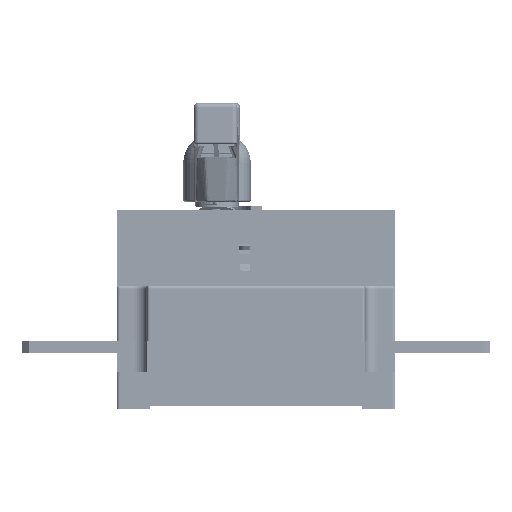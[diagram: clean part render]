
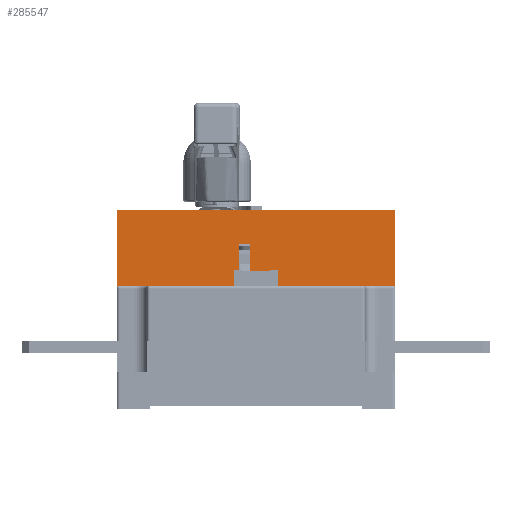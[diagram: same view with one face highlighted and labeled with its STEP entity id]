
A CAD part, left-side view. The second image highlights one B-rep face of the part: STEP entity #285547.
In plain terms, the highlighted planar face has unit normal (-1, 0, 0).
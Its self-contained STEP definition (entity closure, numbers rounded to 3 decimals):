
#2459 = EDGE_LOOP ( 'NONE', ( #88256, #225314, #209747, #127531, #285073, #159746, #201978, #122280 ) ) ;
#5916 = PLANE ( 'NONE',  #224244 ) ;
#9618 = VERTEX_POINT ( 'NONE', #156526 ) ;
#14402 = EDGE_CURVE ( 'NONE', #9618, #229413, #103287, .T. ) ;
#14668 = VECTOR ( 'NONE', #111252, 1000. ) ;
#20156 = CARTESIAN_POINT ( 'NONE',  ( -65., 54.5, 100. ) ) ;
#27062 = VERTEX_POINT ( 'NONE', #137485 ) ;
#31116 = VERTEX_POINT ( 'NONE', #200725 ) ;
#32065 = LINE ( 'NONE', #71494, #39949 ) ;
#33486 = DIRECTION ( 'NONE',  ( 0., 0., 1. ) ) ;
#39949 = VECTOR ( 'NONE', #33486, 1000. ) ;
#51080 = CARTESIAN_POINT ( 'NONE',  ( -65., 54.5, -100. ) ) ;
#56043 = DIRECTION ( 'NONE',  ( 0., 0., -1. ) ) ;
#58953 = LINE ( 'NONE', #171090, #168461 ) ;
#59573 = CARTESIAN_POINT ( 'NONE',  ( -65., 0., -100. ) ) ;
#62666 = EDGE_CURVE ( 'NONE', #31116, #219564, #116941, .T. ) ;
#71494 = CARTESIAN_POINT ( 'NONE',  ( -65., 0., -100. ) ) ;
#73267 = CARTESIAN_POINT ( 'NONE',  ( -65., 0., -12.5 ) ) ;
#74458 = CARTESIAN_POINT ( 'NONE',  ( -65., 54.5, -100. ) ) ;
#78351 = VECTOR ( 'NONE', #188025, 1000. ) ;
#79956 = LINE ( 'NONE', #59573, #86913 ) ;
#86913 = VECTOR ( 'NONE', #148393, 1000. ) ;
#88256 = ORIENTED_EDGE ( 'NONE', *, *, #165420, .T. ) ;
#90836 = CARTESIAN_POINT ( 'NONE',  ( -65., 0., 100. ) ) ;
#93653 = CARTESIAN_POINT ( 'NONE',  ( -65., 0., -4.5 ) ) ;
#97647 = DIRECTION ( 'NONE',  ( 0., 0., -1. ) ) ;
#103287 = LINE ( 'NONE', #20156, #175073 ) ;
#108128 = CARTESIAN_POINT ( 'NONE',  ( -65., 30., -12.5 ) ) ;
#111252 = DIRECTION ( 'NONE',  ( 0., 1., 0. ) ) ;
#112898 = VECTOR ( 'NONE', #223226, 1000. ) ;
#116941 = LINE ( 'NONE', #93653, #14668 ) ;
#121450 = EDGE_CURVE ( 'NONE', #169317, #225543, #201517, .T. ) ;
#122280 = ORIENTED_EDGE ( 'NONE', *, *, #221472, .T. ) ;
#127531 = ORIENTED_EDGE ( 'NONE', *, *, #62666, .F. ) ;
#137485 = CARTESIAN_POINT ( 'NONE',  ( -65., 0., -100. ) ) ;
#140005 = LINE ( 'NONE', #74458, #78351 ) ;
#148393 = DIRECTION ( 'NONE',  ( 0., 0., 1. ) ) ;
#153345 = CARTESIAN_POINT ( 'NONE',  ( -65., 54.5, -100. ) ) ;
#156526 = CARTESIAN_POINT ( 'NONE',  ( -65., 54.5, 100. ) ) ;
#159746 = ORIENTED_EDGE ( 'NONE', *, *, #14402, .F. ) ;
#165420 = EDGE_CURVE ( 'NONE', #27062, #225543, #32065, .T. ) ;
#168461 = VECTOR ( 'NONE', #56043, 1000. ) ;
#169317 = VERTEX_POINT ( 'NONE', #108128 ) ;
#171090 = CARTESIAN_POINT ( 'NONE',  ( -65., 30., -12.5 ) ) ;
#173821 = VERTEX_POINT ( 'NONE', #246295 ) ;
#175073 = VECTOR ( 'NONE', #177452, 1000. ) ;
#176643 = LINE ( 'NONE', #153345, #112898 ) ;
#177452 = DIRECTION ( 'NONE',  ( 0., -1., 0. ) ) ;
#183939 = DIRECTION ( 'NONE',  ( 0., -1., 0. ) ) ;
#188025 = DIRECTION ( 'NONE',  ( 0., 0., 1. ) ) ;
#200725 = CARTESIAN_POINT ( 'NONE',  ( -65., 0., -4.5 ) ) ;
#201517 = LINE ( 'NONE', #73267, #217368 ) ;
#201571 = FACE_OUTER_BOUND ( 'NONE', #2459, .T. ) ;
#201978 = ORIENTED_EDGE ( 'NONE', *, *, #267706, .F. ) ;
#209747 = ORIENTED_EDGE ( 'NONE', *, *, #246008, .F. ) ;
#211263 = DIRECTION ( 'NONE',  ( 1., 0., 0. ) ) ;
#217368 = VECTOR ( 'NONE', #183939, 1000. ) ;
#219564 = VERTEX_POINT ( 'NONE', #232201 ) ;
#221472 = EDGE_CURVE ( 'NONE', #173821, #27062, #176643, .T. ) ;
#223226 = DIRECTION ( 'NONE',  ( 0., -1., 0. ) ) ;
#224244 = AXIS2_PLACEMENT_3D ( 'NONE', #51080, #211263, #97647 ) ;
#225314 = ORIENTED_EDGE ( 'NONE', *, *, #121450, .F. ) ;
#225543 = VERTEX_POINT ( 'NONE', #261338 ) ;
#229413 = VERTEX_POINT ( 'NONE', #90836 ) ;
#232201 = CARTESIAN_POINT ( 'NONE',  ( -65., 30., -4.5 ) ) ;
#246008 = EDGE_CURVE ( 'NONE', #219564, #169317, #58953, .T. ) ;
#246295 = CARTESIAN_POINT ( 'NONE',  ( -65., 54.5, -100. ) ) ;
#254056 = EDGE_CURVE ( 'NONE', #31116, #229413, #79956, .T. ) ;
#261338 = CARTESIAN_POINT ( 'NONE',  ( -65., 0., -12.5 ) ) ;
#267706 = EDGE_CURVE ( 'NONE', #173821, #9618, #140005, .T. ) ;
#285073 = ORIENTED_EDGE ( 'NONE', *, *, #254056, .T. ) ;
#285547 = ADVANCED_FACE ( 'NONE', ( #201571 ), #5916, .F. ) ;
